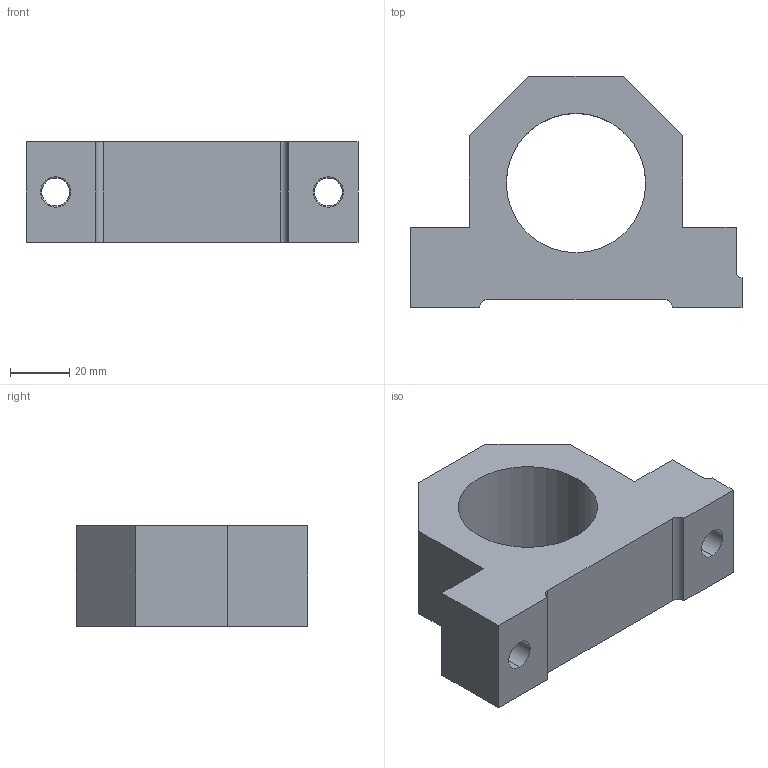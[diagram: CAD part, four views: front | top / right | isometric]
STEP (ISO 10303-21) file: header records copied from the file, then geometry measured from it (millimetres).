
FILE_DESCRIPTION (( 'STEP AP203' ), '1' );
FILE_NAME ('SLA-20.STEP', '2002-08-15T13:51:38', ( '.' ), ( '.' ), 'SwSTEP 2.0', 'SolidWorks 2001340', '' );
FILE_SCHEMA (( 'CONFIG_CONTROL_DESIGN' ));
Length unit declared in the file: millimetre
Products named in the file (1): SLA-20
Bounding box: 112 x 78 x 34 mm (x, y, z)
Volume: 143679.2 mm3; surface area: 27373.2 mm2
Topology: 1 solids, 1 shells, 28 faces, 74 edges, 48 vertices
Faces by surface type: plane 15, cylinder 9, cone 4
Entity records: 957 total; most frequent: DIRECTION 154, CARTESIAN_POINT 151, ORIENTED_EDGE 148, EDGE_CURVE 74, LINE 52, VECTOR 52, AXIS2_PLACEMENT_3D 51, VERTEX_POINT 48
